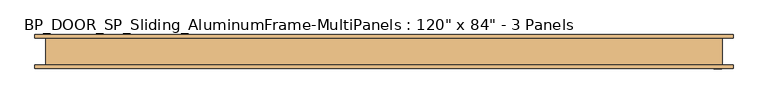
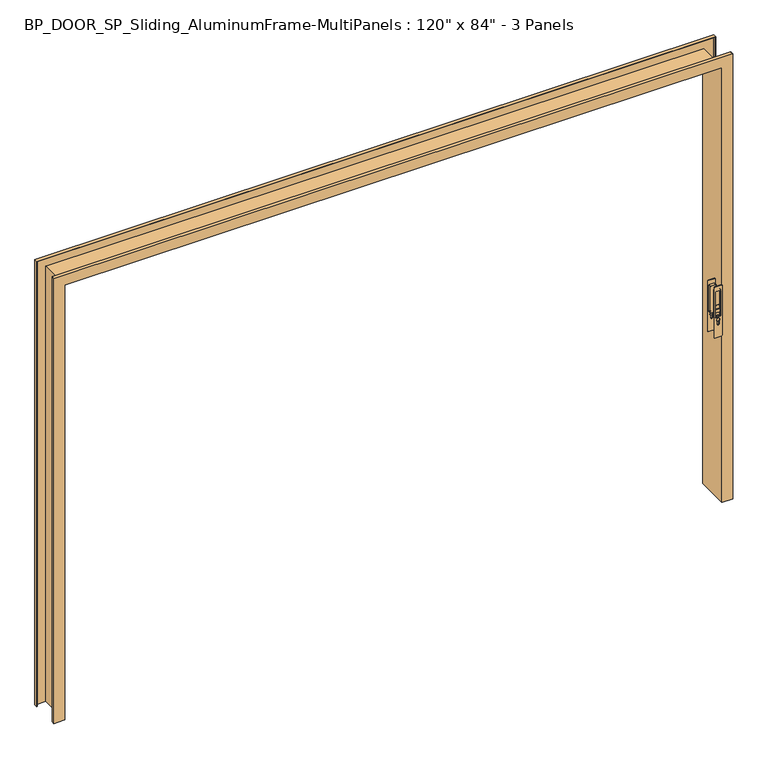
"""IFC4 building model written with IfcOpenShell, lengths in millimetres: door geometry."""

from ifc_helpers import new_model, si_unit, point, frame, frame_2d, origin, place, context, project, spatial, polyline, circle_curve, trimmed, segment, composite_curve, outline, extrude, faceted_brep, source, transform, mapped, element, save


def door_23af0c9a(model_context):
    return source(origin(), model_context, "Body", "SolidModel", [
        extrude(outline(composite_curve([segment(trimmed(circle_curve(frame_2d((1045.1118918, 1496.4)), 3.0), [point((1048.1118918, 1496.4))], [point((1045.1118918, 1493.4))], False, "CARTESIAN"), True, "CONTINUOUS"), segment(polyline([(1045.1118918, 1493.4), (919.0, 1493.4)]), True, "CONTINUOUS"), segment(trimmed(circle_curve(frame_2d((919.0, 1496.4)), 3.0), [point((919.0, 1493.4))], [point((916.0, 1496.4))], False, "CARTESIAN"), True, "CONTINUOUS"), segment(polyline([(916.0, 1496.4), (916.0, 1515.4)]), True, "CONTINUOUS"), segment(trimmed(circle_curve(frame_2d((919.0, 1515.4)), 3.0), [point((916.0, 1515.4))], [point((919.0, 1518.4))], False, "CARTESIAN"), True, "CONTINUOUS"), segment(polyline([(919.0, 1518.4), (1045.1118918, 1518.4)]), True, "CONTINUOUS"), segment(trimmed(circle_curve(frame_2d((1045.1118918, 1515.4)), 3.0), [point((1045.1118918, 1518.4))], [point((1048.1118918, 1515.4))], False, "CARTESIAN"), True, "CONTINUOUS"), segment(polyline([(1048.1118918, 1515.4), (1048.1118918, 1496.4)]), True, "CONTINUOUS")], self_intersect=False)), frame((0.0, -37.4, 0.0), z_axis=(0.0, 1.0, 0.0), x_axis=(0.0, 0.0, 1.0)), (0.0, 0.0, 1.0), 1.0),
        extrude(outline(composite_curve([segment(trimmed(circle_curve(frame_2d((1046.1118918, 1495.4)), 3.0), [point((1049.1118918, 1495.4))], [point((1046.1118918, 1492.4))], False, "CARTESIAN"), True, "CONTINUOUS"), segment(polyline([(1046.1118918, 1492.4), (918.0, 1492.4)]), True, "CONTINUOUS"), segment(trimmed(circle_curve(frame_2d((918.0, 1495.4)), 3.0), [point((918.0, 1492.4))], [point((915.0, 1495.4))], False, "CARTESIAN"), True, "CONTINUOUS"), segment(polyline([(915.0, 1495.4), (915.0, 1516.4)]), True, "CONTINUOUS"), segment(trimmed(circle_curve(frame_2d((918.0, 1516.4)), 3.0), [point((915.0, 1516.4))], [point((918.0, 1519.4))], False, "CARTESIAN"), True, "CONTINUOUS"), segment(polyline([(918.0, 1519.4), (1046.1118918, 1519.4)]), True, "CONTINUOUS"), segment(trimmed(circle_curve(frame_2d((1046.1118918, 1516.4)), 3.0), [point((1046.1118918, 1519.4))], [point((1049.1118918, 1516.4))], False, "CARTESIAN"), True, "CONTINUOUS"), segment(polyline([(1049.1118918, 1516.4), (1049.1118918, 1495.4)]), True, "CONTINUOUS")], self_intersect=False), holes=[composite_curve([segment(polyline([(1048.1118918, 1496.4), (1048.1118918, 1515.4)]), True, "CONTINUOUS"), segment(trimmed(circle_curve(frame_2d((1045.1118918, 1515.4)), 3.0), [point((1048.1118918, 1515.4))], [point((1045.1118918, 1518.4))], True, "CARTESIAN"), True, "CONTINUOUS"), segment(polyline([(1045.1118918, 1518.4), (919.0, 1518.4)]), True, "CONTINUOUS"), segment(trimmed(circle_curve(frame_2d((919.0, 1515.4)), 3.0), [point((919.0, 1518.4))], [point((916.0, 1515.4))], True, "CARTESIAN"), True, "CONTINUOUS"), segment(polyline([(916.0, 1515.4), (916.0, 1496.4)]), True, "CONTINUOUS"), segment(trimmed(circle_curve(frame_2d((919.0, 1496.4)), 3.0), [point((916.0, 1496.4))], [point((919.0, 1493.4))], True, "CARTESIAN"), True, "CONTINUOUS"), segment(polyline([(919.0, 1493.4), (1045.1118918, 1493.4)]), True, "CONTINUOUS"), segment(trimmed(circle_curve(frame_2d((1045.1118918, 1496.4)), 3.0), [point((1045.1118918, 1493.4))], [point((1048.1118918, 1496.4))], True, "CARTESIAN"), True, "CONTINUOUS")], self_intersect=False)]), frame((0.0, -37.4, 0.0), z_axis=(0.0, 1.0, 0.0), x_axis=(0.0, 0.0, 1.0)), (0.0, 0.0, 1.0), 12.0),
        extrude(outline(polyline([(1495.4, -27.3710938), (1516.4, -27.3710938), (1516.4, -34.415625), (1495.4, -34.415625), (1495.4, -27.3710938)])), frame((0.0, 0.0, 938.1118918), z_axis=(0.0, 0.0, 1.0), x_axis=(1.0, 0.0, 0.0)), (0.0, 0.0, 1.0), 14.0),
        extrude(outline(composite_curve([segment(polyline([(921.1118918, 1498.4), (921.1118918, 1513.4)]), True, "CONTINUOUS"), segment(trimmed(circle_curve(frame_2d((924.1118918, 1513.4)), 3.0), [point((921.1118918, 1513.4))], [point((924.1118918, 1516.4))], False, "CARTESIAN"), True, "CONTINUOUS"), segment(polyline([(924.1118918, 1516.4), (966.1118918, 1516.4)]), True, "CONTINUOUS"), segment(trimmed(circle_curve(frame_2d((966.1118918, 1513.4)), 3.0), [point((966.1118918, 1516.4))], [point((969.1118918, 1513.4))], False, "CARTESIAN"), True, "CONTINUOUS"), segment(polyline([(969.1118918, 1513.4), (969.1118918, 1498.4)]), True, "CONTINUOUS"), segment(trimmed(circle_curve(frame_2d((966.1118918, 1498.4)), 3.0), [point((969.1118918, 1498.4))], [point((966.1118918, 1495.4))], False, "CARTESIAN"), True, "CONTINUOUS"), segment(polyline([(966.1118918, 1495.4), (924.1118918, 1495.4)]), True, "CONTINUOUS"), segment(trimmed(circle_curve(frame_2d((924.1118918, 1498.4)), 3.0), [point((924.1118918, 1495.4))], [point((921.1118918, 1498.4))], False, "CARTESIAN"), True, "CONTINUOUS")], self_intersect=False)), frame((0.0, -36.4, 0.0), z_axis=(0.0, 1.0, 0.0), x_axis=(0.0, 0.0, 1.0)), (0.0, 0.0, 1.0), 1.984375),
        extrude(outline(composite_curve([segment(trimmed(circle_curve(frame_2d((1067.1118918, 1490.9)), 3.0), [point((1070.1118918, 1490.9))], [point((1067.1118918, 1487.9))], False, "CARTESIAN"), True, "CONTINUOUS"), segment(polyline([(1067.1118918, 1487.9), (823.1118918, 1487.9)]), True, "CONTINUOUS"), segment(trimmed(circle_curve(frame_2d((823.1118918, 1490.9)), 3.0), [point((823.1118918, 1487.9))], [point((820.1118918, 1490.9))], False, "CARTESIAN"), True, "CONTINUOUS"), segment(polyline([(820.1118918, 1490.9), (820.1118918, 1519.9)]), True, "CONTINUOUS"), segment(trimmed(circle_curve(frame_2d((824.1118918, 1519.9)), 4.0), [point((820.1118918, 1519.9))], [point((824.1118918, 1523.9))], False, "CARTESIAN"), True, "CONTINUOUS"), segment(polyline([(824.1118918, 1523.9), (1066.1118918, 1523.9)]), True, "CONTINUOUS"), segment(trimmed(circle_curve(frame_2d((1066.1118918, 1519.9)), 4.0), [point((1066.1118918, 1523.9))], [point((1070.1118918, 1519.9))], False, "CARTESIAN"), True, "CONTINUOUS"), segment(polyline([(1070.1118918, 1519.9), (1070.1118918, 1490.9)]), True, "CONTINUOUS")], self_intersect=False), holes=[composite_curve([segment(polyline([(1044.6118918, 1497.9), (1044.6118918, 1513.9)]), True, "CONTINUOUS"), segment(trimmed(circle_curve(frame_2d((1041.6118918, 1513.9)), 3.0), [point((1044.6118918, 1513.9))], [point((1041.6118918, 1516.9))], True, "CARTESIAN"), True, "CONTINUOUS"), segment(polyline([(1041.6118918, 1516.9), (921.6118918, 1516.9)]), True, "CONTINUOUS"), segment(trimmed(circle_curve(frame_2d((921.6118918, 1513.9)), 3.0), [point((921.6118918, 1516.9))], [point((918.6118918, 1513.9))], True, "CARTESIAN"), True, "CONTINUOUS"), segment(polyline([(918.6118918, 1513.9), (918.6118918, 1497.9)]), True, "CONTINUOUS"), segment(trimmed(circle_curve(frame_2d((921.6118918, 1497.9)), 3.0), [point((918.6118918, 1497.9))], [point((921.6118918, 1494.9))], True, "CARTESIAN"), True, "CONTINUOUS"), segment(polyline([(921.6118918, 1494.9), (1041.6118918, 1494.9)]), True, "CONTINUOUS"), segment(trimmed(circle_curve(frame_2d((1041.6118918, 1497.9)), 3.0), [point((1041.6118918, 1494.9))], [point((1044.6118918, 1497.9))], True, "CARTESIAN"), True, "CONTINUOUS")], self_intersect=False), composite_curve([segment(polyline([(897.2004026, 1510.4144531), (883.4783316, 1510.4144531)]), True, "CONTINUOUS"), segment(trimmed(circle_curve(frame_2d((883.4783316, 1505.9)), 4.5144531), [point((883.4783316, 1510.4144531))], [point((883.4783316, 1501.3855469))], True, "CARTESIAN"), True, "CONTINUOUS"), segment(polyline([(883.4783316, 1501.3855469), (897.2004026, 1501.3855469)]), True, "CONTINUOUS"), segment(trimmed(circle_curve(frame_2d((903.7290793, 1505.9)), 7.9375), [point((897.2004026, 1501.3855469))], [point((897.2004026, 1510.4144531))], True, "CARTESIAN"), True, "CONTINUOUS")], self_intersect=False)]), frame((0.0, -25.4, 0.0), z_axis=(0.0, 1.0, 0.0), x_axis=(0.0, 0.0, 1.0)), (0.0, 0.0, 1.0), 2.0),
        extrude(outline(composite_curve([segment(trimmed(circle_curve(frame_2d((1045.1118918, 1496.4)), 3.0), [point((1048.1118918, 1496.4))], [point((1045.1118918, 1493.4))], False, "CARTESIAN"), True, "CONTINUOUS"), segment(polyline([(1045.1118918, 1493.4), (919.0, 1493.4)]), True, "CONTINUOUS"), segment(trimmed(circle_curve(frame_2d((919.0, 1496.4)), 3.0), [point((919.0, 1493.4))], [point((916.0, 1496.4))], False, "CARTESIAN"), True, "CONTINUOUS"), segment(polyline([(916.0, 1496.4), (916.0, 1515.4)]), True, "CONTINUOUS"), segment(trimmed(circle_curve(frame_2d((919.0, 1515.4)), 3.0), [point((916.0, 1515.4))], [point((919.0, 1518.4))], False, "CARTESIAN"), True, "CONTINUOUS"), segment(polyline([(919.0, 1518.4), (1045.1118918, 1518.4)]), True, "CONTINUOUS"), segment(trimmed(circle_curve(frame_2d((1045.1118918, 1515.4)), 3.0), [point((1045.1118918, 1518.4))], [point((1048.1118918, 1515.4))], False, "CARTESIAN"), True, "CONTINUOUS"), segment(polyline([(1048.1118918, 1515.4), (1048.1118918, 1496.4)]), True, "CONTINUOUS")], self_intersect=False)), frame((0.0, -65.2, 0.0), z_axis=(0.0, 1.0, 0.0), x_axis=(0.0, 0.0, 1.0)), (0.0, 0.0, 1.0), 1.0),
        extrude(outline(composite_curve([segment(trimmed(circle_curve(frame_2d((1046.1118918, 1495.4)), 3.0), [point((1049.1118918, 1495.4))], [point((1046.1118918, 1492.4))], False, "CARTESIAN"), True, "CONTINUOUS"), segment(polyline([(1046.1118918, 1492.4), (918.0, 1492.4)]), True, "CONTINUOUS"), segment(trimmed(circle_curve(frame_2d((918.0, 1495.4)), 3.0), [point((918.0, 1492.4))], [point((915.0, 1495.4))], False, "CARTESIAN"), True, "CONTINUOUS"), segment(polyline([(915.0, 1495.4), (915.0, 1516.4)]), True, "CONTINUOUS"), segment(trimmed(circle_curve(frame_2d((918.0, 1516.4)), 3.0), [point((915.0, 1516.4))], [point((918.0, 1519.4))], False, "CARTESIAN"), True, "CONTINUOUS"), segment(polyline([(918.0, 1519.4), (1046.1118918, 1519.4)]), True, "CONTINUOUS"), segment(trimmed(circle_curve(frame_2d((1046.1118918, 1516.4)), 3.0), [point((1046.1118918, 1519.4))], [point((1049.1118918, 1516.4))], False, "CARTESIAN"), True, "CONTINUOUS"), segment(polyline([(1049.1118918, 1516.4), (1049.1118918, 1495.4)]), True, "CONTINUOUS")], self_intersect=False), holes=[composite_curve([segment(polyline([(1048.1118918, 1496.4), (1048.1118918, 1515.4)]), True, "CONTINUOUS"), segment(trimmed(circle_curve(frame_2d((1045.1118918, 1515.4)), 3.0), [point((1048.1118918, 1515.4))], [point((1045.1118918, 1518.4))], True, "CARTESIAN"), True, "CONTINUOUS"), segment(polyline([(1045.1118918, 1518.4), (919.0, 1518.4)]), True, "CONTINUOUS"), segment(trimmed(circle_curve(frame_2d((919.0, 1515.4)), 3.0), [point((919.0, 1518.4))], [point((916.0, 1515.4))], True, "CARTESIAN"), True, "CONTINUOUS"), segment(polyline([(916.0, 1515.4), (916.0, 1496.4)]), True, "CONTINUOUS"), segment(trimmed(circle_curve(frame_2d((919.0, 1496.4)), 3.0), [point((916.0, 1496.4))], [point((919.0, 1493.4))], True, "CARTESIAN"), True, "CONTINUOUS"), segment(polyline([(919.0, 1493.4), (1045.1118918, 1493.4)]), True, "CONTINUOUS"), segment(trimmed(circle_curve(frame_2d((1045.1118918, 1496.4)), 3.0), [point((1045.1118918, 1493.4))], [point((1048.1118918, 1496.4))], True, "CARTESIAN"), True, "CONTINUOUS")], self_intersect=False)]), frame((0.0, -76.2, 0.0), z_axis=(0.0, 1.0, 0.0), x_axis=(0.0, 0.0, 1.0)), (0.0, 0.0, 1.0), 12.0),
        extrude(outline(polyline([(1495.4, -74.2289063), (1495.4, -67.184375), (1516.4, -67.184375), (1516.4, -74.2289063), (1495.4, -74.2289063)])), frame((0.0, 0.0, 938.1118918), z_axis=(0.0, 0.0, 1.0), x_axis=(1.0, 0.0, 0.0)), (0.0, 0.0, 1.0), 14.0),
        extrude(outline(composite_curve([segment(polyline([(921.1118918, 1498.4), (921.1118918, 1513.4)]), True, "CONTINUOUS"), segment(trimmed(circle_curve(frame_2d((924.1118918, 1513.4)), 3.0), [point((921.1118918, 1513.4))], [point((924.1118918, 1516.4))], False, "CARTESIAN"), True, "CONTINUOUS"), segment(polyline([(924.1118918, 1516.4), (966.1118918, 1516.4)]), True, "CONTINUOUS"), segment(trimmed(circle_curve(frame_2d((966.1118918, 1513.4)), 3.0), [point((966.1118918, 1516.4))], [point((969.1118918, 1513.4))], False, "CARTESIAN"), True, "CONTINUOUS"), segment(polyline([(969.1118918, 1513.4), (969.1118918, 1498.4)]), True, "CONTINUOUS"), segment(trimmed(circle_curve(frame_2d((966.1118918, 1498.4)), 3.0), [point((969.1118918, 1498.4))], [point((966.1118918, 1495.4))], False, "CARTESIAN"), True, "CONTINUOUS"), segment(polyline([(966.1118918, 1495.4), (924.1118918, 1495.4)]), True, "CONTINUOUS"), segment(trimmed(circle_curve(frame_2d((924.1118918, 1498.4)), 3.0), [point((924.1118918, 1495.4))], [point((921.1118918, 1498.4))], False, "CARTESIAN"), True, "CONTINUOUS")], self_intersect=False)), frame((0.0, -67.184375, 0.0), z_axis=(0.0, 1.0, 0.0), x_axis=(0.0, 0.0, 1.0)), (0.0, 0.0, 1.0), 1.984375),
        extrude(outline(composite_curve([segment(trimmed(circle_curve(frame_2d((1067.1118918, 1490.9)), 3.0), [point((1070.1118918, 1490.9))], [point((1067.1118918, 1487.9))], False, "CARTESIAN"), True, "CONTINUOUS"), segment(polyline([(1067.1118918, 1487.9), (823.1118918, 1487.9)]), True, "CONTINUOUS"), segment(trimmed(circle_curve(frame_2d((823.1118918, 1490.9)), 3.0), [point((823.1118918, 1487.9))], [point((820.1118918, 1490.9))], False, "CARTESIAN"), True, "CONTINUOUS"), segment(polyline([(820.1118918, 1490.9), (820.1118918, 1519.9)]), True, "CONTINUOUS"), segment(trimmed(circle_curve(frame_2d((824.1118918, 1519.9)), 4.0), [point((820.1118918, 1519.9))], [point((824.1118918, 1523.9))], False, "CARTESIAN"), True, "CONTINUOUS"), segment(polyline([(824.1118918, 1523.9), (1066.1118918, 1523.9)]), True, "CONTINUOUS"), segment(trimmed(circle_curve(frame_2d((1066.1118918, 1519.9)), 4.0), [point((1066.1118918, 1523.9))], [point((1070.1118918, 1519.9))], False, "CARTESIAN"), True, "CONTINUOUS"), segment(polyline([(1070.1118918, 1519.9), (1070.1118918, 1490.9)]), True, "CONTINUOUS")], self_intersect=False), holes=[composite_curve([segment(polyline([(1044.6118918, 1497.9), (1044.6118918, 1513.9)]), True, "CONTINUOUS"), segment(trimmed(circle_curve(frame_2d((1041.6118918, 1513.9)), 3.0), [point((1044.6118918, 1513.9))], [point((1041.6118918, 1516.9))], True, "CARTESIAN"), True, "CONTINUOUS"), segment(polyline([(1041.6118918, 1516.9), (921.6118918, 1516.9)]), True, "CONTINUOUS"), segment(trimmed(circle_curve(frame_2d((921.6118918, 1513.9)), 3.0), [point((921.6118918, 1516.9))], [point((918.6118918, 1513.9))], True, "CARTESIAN"), True, "CONTINUOUS"), segment(polyline([(918.6118918, 1513.9), (918.6118918, 1497.9)]), True, "CONTINUOUS"), segment(trimmed(circle_curve(frame_2d((921.6118918, 1497.9)), 3.0), [point((918.6118918, 1497.9))], [point((921.6118918, 1494.9))], True, "CARTESIAN"), True, "CONTINUOUS"), segment(polyline([(921.6118918, 1494.9), (1041.6118918, 1494.9)]), True, "CONTINUOUS"), segment(trimmed(circle_curve(frame_2d((1041.6118918, 1497.9)), 3.0), [point((1041.6118918, 1494.9))], [point((1044.6118918, 1497.9))], True, "CARTESIAN"), True, "CONTINUOUS")], self_intersect=False), composite_curve([segment(trimmed(circle_curve(frame_2d((883.4783316, 1505.9)), 4.5144531), [point((883.4783316, 1510.4144531))], [point((883.4783316, 1501.3855469))], True, "CARTESIAN"), True, "CONTINUOUS"), segment(polyline([(883.4783316, 1501.3855469), (897.2004026, 1501.3855469)]), True, "CONTINUOUS"), segment(trimmed(circle_curve(frame_2d((903.7290793, 1505.9)), 7.9375), [point((897.2004026, 1501.3855469))], [point((897.2004026, 1510.4144531))], True, "CARTESIAN"), True, "CONTINUOUS"), segment(polyline([(897.2004026, 1510.4144531), (883.4783316, 1510.4144531)]), True, "CONTINUOUS")], self_intersect=False)]), frame((0.0, -78.2, 0.0), z_axis=(0.0, 1.0, 0.0), x_axis=(0.0, 0.0, 1.0)), (0.0, 0.0, 1.0), 2.0),
        faceted_brep([(1574.8, -61.2, 0.0), (1574.8, -76.2, 0.0), (1524.0, -76.2, 0.0), (1524.0, 76.2, 0.0), (1574.8, 76.2, 0.0), (1574.8, 61.2, 0.0), (1572.8, 61.2, 0.0), (1572.8, 74.2, 0.0), (1526.0, 74.2, 0.0), (1526.0, -74.2, 0.0), (1572.8, -74.2, 0.0), (1572.8, -61.2, 0.0), (1572.8, -61.2, 2182.4), (-1572.8, -61.2, 2182.4), (-1572.8, -61.2, 0.0), (-1574.8, -61.2, 0.0), (-1574.8, -61.2, 2184.4), (1574.8, -61.2, 2184.4), (1572.8, -74.2, 2182.4), (1526.0, -74.2, 2135.6), (-1526.0, -74.2, 2135.6), (-1526.0, -74.2, 0.0), (-1572.8, -74.2, 0.0), (-1572.8, -74.2, 2182.4), (1526.0, 74.2, 2135.6), (1572.8, 74.2, 2182.4), (-1572.8, 74.2, 2182.4), (-1572.8, 74.2, 0.0), (-1526.0, 74.2, 0.0), (-1526.0, 74.2, 2135.6), (1572.8, 61.2, 2182.4), (1574.8, 61.2, 2184.4), (-1574.8, 61.2, 2184.4), (-1574.8, 61.2, 0.0), (-1572.8, 61.2, 0.0), (-1572.8, 61.2, 2182.4), (1574.8, 76.2, 2184.4), (1524.0, 76.2, 2133.6), (-1524.0, 76.2, 2133.6), (-1524.0, 76.2, 0.0), (-1574.8, 76.2, 0.0), (-1574.8, 76.2, 2184.4), (1524.0, -76.2, 2133.6), (1574.8, -76.2, 2184.4), (-1574.8, -76.2, 2184.4), (-1574.8, -76.2, 0.0), (-1524.0, -76.2, 0.0), (-1524.0, -76.2, 2133.6)], [[[0, 1, 2, 3, 4, 5, 6, 7, 8, 9, 10, 11]], [[0, 11, 12, 13, 14, 15, 16, 17]], [[11, 10, 18, 12]], [[10, 9, 19, 20, 21, 22, 23, 18]], [[9, 8, 24, 19]], [[8, 7, 25, 26, 27, 28, 29, 24]], [[7, 6, 30, 25]], [[6, 5, 31, 32, 33, 34, 35, 30]], [[5, 4, 36, 31]], [[4, 3, 37, 38, 39, 40, 41, 36]], [[3, 2, 42, 37]], [[2, 1, 43, 44, 45, 46, 47, 42]], [[1, 0, 17, 43]], [[12, 18, 23, 13]], [[19, 24, 29, 20]], [[25, 30, 35, 26]], [[31, 36, 41, 32]], [[37, 42, 47, 38]], [[43, 17, 16, 44]], [[15, 14, 22, 21, 28, 27, 34, 33, 40, 39, 46, 45]], [[13, 23, 22, 14]], [[20, 29, 28, 21]], [[26, 35, 34, 27]], [[32, 41, 40, 33]], [[38, 47, 46, 39]], [[44, 16, 15, 45]]]),
    ])


if __name__ == "__main__":
    model = new_model("IFC4")
    model_context = context("Model", 3, world=origin())
    ifc_project = project(units=[si_unit("LENGTHUNIT", "METRE", prefix="MILLI")], contexts=[model_context])
    site = spatial("IfcSite", under=ifc_project)
    building = spatial("IfcBuilding", under=site)
    placement = place(None, origin())
    door_shape = door_23af0c9a(model_context)
    element("IfcDoor", 1, ObjectType="BP_DOOR_SP_Sliding_AluminumFrame-MultiPanels : 120\" x 84\" - 3 Panels", at=placement, inside=building, context=model_context, shape_type="MappedRepresentation", body=[
        mapped(door_shape, transform((0.0, 0.0, 0.0), x_axis=(1.0, 0.0, 0.0), y_axis=(0.0, 1.0, 0.0), z_axis=(0.0, 0.0, 1.0))),
    ])
    save(model, "model.ifc")
